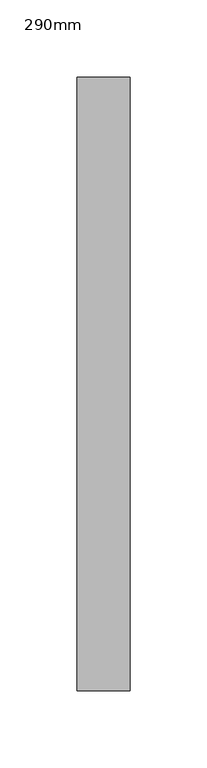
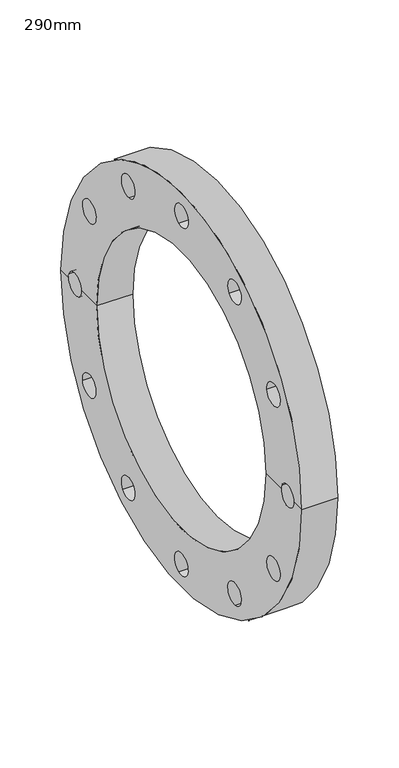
"""IFC4 building model written with IfcOpenShell, lengths in millimetres: pipe fitting geometry, Durapipe_PipeFitting_PVC_BackingFlange : 290mm."""

from ifc_helpers import new_model, si_unit, frame, origin, place, context, project, spatial, polyline, circle_curve, source, transform, mapped, element, save
from ifc_brep_helpers import plane_surface, cylinder_surface, revolved_surface, advanced_brep


def pipe_fitting_290mm_5db712d4(model_context):
    return source(origin(), model_context, "Body", "AdvancedBrep", [
        advanced_brep(
        [(-17.0, 198.0, 0.0), (17.0, 198.0, 0.0), (17.0, -198.0, 0.0), (-17.0, -198.0, 0.0), (-17.0, -185.6997967, 0.0), (-17.0, -184.8610992, -4.2781549), (-17.0, -163.7001792, 0.0), (-17.0, -139.0, 0.0), (-17.0, 139.0, 0.0), (-17.0, 163.7001792, 0.0), (-17.0, 164.5388767, -4.1484266), (-17.0, 185.6997967, 0.0), (-17.0, 4.2781549, -184.8610992), (-17.0, -4.1484266, -164.5388767), (-17.0, 96.1355404, -157.9553306), (-17.0, 78.6767956, -144.5690605), (-17.0, -88.7255587, -162.2334855), (-17.0, -85.8620812, -140.4206339), (-17.0, 162.2334855, -88.7255587), (-17.0, 140.4206339, -85.8620812), (-17.0, -157.9553306, -96.1355404), (-17.0, -144.5690605, -78.6767956), (-17.0, 184.8610992, 4.2781549), (-17.0, -164.5388767, 4.1484266), (-17.0, 157.9553306, 96.1355404), (-17.0, 144.5690605, 78.6767956), (-17.0, 88.7255587, 162.2334855), (-17.0, 85.8620812, 140.4206339), (-17.0, -4.2781549, 184.8610992), (-17.0, 4.1484266, 164.5388767), (-17.0, -96.1355404, 157.9553306), (-17.0, -78.6767956, 144.5690605), (-17.0, -162.2334855, 88.7255587), (-17.0, -140.4206339, 85.8620812), (17.0, 139.0, 0.0), (17.0, -139.0, 0.0), (17.0, -163.7001792, 0.0), (17.0, -184.8610992, -4.2781549), (17.0, -185.6997967, 0.0), (17.0, 185.6997967, 0.0), (17.0, 164.5388767, -4.1484266), (17.0, 163.7001792, 0.0), (17.0, -4.1484266, -164.5388767), (17.0, 4.2781549, -184.8610992), (17.0, 78.6767956, -144.5690605), (17.0, 96.1355404, -157.9553306), (17.0, -85.8620812, -140.4206339), (17.0, -88.7255587, -162.2334855), (17.0, 140.4206339, -85.8620812), (17.0, 162.2334855, -88.7255587), (17.0, -144.5690605, -78.6767956), (17.0, -157.9553306, -96.1355404), (17.0, 184.8610992, 4.2781549), (17.0, -164.5388767, 4.1484266), (17.0, 144.5690605, 78.6767956), (17.0, 157.9553306, 96.1355404), (17.0, 85.8620812, 140.4206339), (17.0, 88.7255587, 162.2334855), (17.0, 4.1484266, 164.5388767), (17.0, -4.2781549, 184.8610992), (17.0, -78.6767956, 144.5690605), (17.0, -96.1355404, 157.9553306), (17.0, -140.4206339, 85.8620812), (17.0, -162.2334855, 88.7255587)],
        [
            (0, 1),
            (1, 2, circle_curve(frame((17.0, 0.0, 0.0), z_axis=(-1.0, 0.0, 0.0), x_axis=(0.0, 1.0, 0.0)), 198.0)),
            (2, 3),
            (3, 0, circle_curve(frame((-17.0, 0.0, 0.0), z_axis=(1.0, 0.0, 0.0), x_axis=(0.0, 1.0, 0.0)), 198.0)),
            (0, 3, circle_curve(frame((-17.0, 0.0, 0.0), z_axis=(1.0, 0.0, 0.0), x_axis=(0.0, 1.0, 0.0)), 198.0)),
            (2, 1, circle_curve(frame((17.0, 0.0, 0.0), z_axis=(-1.0, 0.0, 0.0), x_axis=(0.0, 1.0, 0.0)), 198.0)),
            (3, 4),
            (4, 5, circle_curve(frame((-17.0, -174.699988, -0.0648642), z_axis=(1.0, 0.0, 0.0), x_axis=(0.0, -0.9237373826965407, -0.38302643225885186)), 11.0)),
            (5, 6, circle_curve(frame((-17.0, -174.699988, -0.0648642), z_axis=(1.0, 0.0, 0.0), x_axis=(0.0, -0.9237373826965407, -0.38302643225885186)), 11.0)),
            (6, 7),
            (7, 8, circle_curve(frame((-17.0, 0.0, 0.0), z_axis=(1.0, 0.0, 0.0), x_axis=(0.0, 1.0, 0.0)), 139.0)),
            (8, 9),
            (9, 10, circle_curve(frame((-17.0, 174.699988, 0.0648642), z_axis=(1.0, 0.0, 0.0), x_axis=(0.0, 0.9237373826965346, 0.3830264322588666)), 11.0)),
            (10, 11, circle_curve(frame((-17.0, 174.699988, 0.0648642), z_axis=(1.0, 0.0, 0.0), x_axis=(0.0, 0.9237373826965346, 0.3830264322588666)), 11.0)),
            (11, 0),
            (12, 13, circle_curve(frame((-17.0, 0.0648642, -174.699988), z_axis=(1.0, 0.0, 0.0), x_axis=(0.0, 0.3830264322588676, -0.9237373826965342)), 11.0)),
            (13, 12, circle_curve(frame((-17.0, 0.0648642, -174.699988), z_axis=(1.0, 0.0, 0.0), x_axis=(0.0, 0.3830264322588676, -0.9237373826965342)), 11.0)),
            (14, 15, circle_curve(frame((-17.0, 87.406168, -151.2621955), z_axis=(1.0, 0.0, 0.0), x_axis=(0.0, 0.7935793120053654, -0.6084668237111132)), 11.0)),
            (15, 14, circle_curve(frame((-17.0, 87.406168, -151.2621955), z_axis=(1.0, 0.0, 0.0), x_axis=(0.0, 0.7935793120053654, -0.6084668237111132)), 11.0)),
            (16, 17, circle_curve(frame((-17.0, -87.29382, -151.3270597), z_axis=(1.0, 0.0, 0.0), x_axis=(0.0, -0.13015807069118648, -0.991493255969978)), 11.0)),
            (17, 16, circle_curve(frame((-17.0, -87.29382, -151.3270597), z_axis=(1.0, 0.0, 0.0), x_axis=(0.0, -0.13015807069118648, -0.991493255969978)), 11.0)),
            (18, 19, circle_curve(frame((-17.0, 151.3270597, -87.29382), z_axis=(1.0, 0.0, 0.0), x_axis=(0.0, 0.9914932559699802, -0.13015807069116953)), 11.0)),
            (19, 18, circle_curve(frame((-17.0, 151.3270597, -87.29382), z_axis=(1.0, 0.0, 0.0), x_axis=(0.0, 0.9914932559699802, -0.13015807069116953)), 11.0)),
            (20, 21, circle_curve(frame((-17.0, -151.2621955, -87.406168), z_axis=(1.0, 0.0, 0.0), x_axis=(0.0, -0.6084668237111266, -0.7935793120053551)), 11.0)),
            (21, 20, circle_curve(frame((-17.0, -151.2621955, -87.406168), z_axis=(1.0, 0.0, 0.0), x_axis=(0.0, -0.6084668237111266, -0.7935793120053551)), 11.0)),
            (11, 22, circle_curve(frame((-17.0, 174.699988, 0.0648642), z_axis=(1.0, 0.0, 0.0), x_axis=(0.0, 0.9237373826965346, 0.3830264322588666)), 11.0)),
            (22, 9, circle_curve(frame((-17.0, 174.699988, 0.0648642), z_axis=(1.0, 0.0, 0.0), x_axis=(0.0, 0.9237373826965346, 0.3830264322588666)), 11.0)),
            (8, 7, circle_curve(frame((-17.0, 0.0, 0.0), z_axis=(1.0, 0.0, 0.0), x_axis=(0.0, 1.0, 0.0)), 139.0)),
            (6, 23, circle_curve(frame((-17.0, -174.699988, -0.0648642), z_axis=(1.0, 0.0, 0.0), x_axis=(0.0, -0.9237373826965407, -0.38302643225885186)), 11.0)),
            (23, 4, circle_curve(frame((-17.0, -174.699988, -0.0648642), z_axis=(1.0, 0.0, 0.0), x_axis=(0.0, -0.9237373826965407, -0.38302643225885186)), 11.0)),
            (24, 25, circle_curve(frame((-17.0, 151.2621955, 87.406168), z_axis=(1.0, 0.0, 0.0), x_axis=(0.0, 0.6084668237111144, 0.7935793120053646)), 11.0)),
            (25, 24, circle_curve(frame((-17.0, 151.2621955, 87.406168), z_axis=(1.0, 0.0, 0.0), x_axis=(0.0, 0.6084668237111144, 0.7935793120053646)), 11.0)),
            (26, 27, circle_curve(frame((-17.0, 87.29382, 151.3270597), z_axis=(1.0, 0.0, 0.0), x_axis=(0.0, 0.1301580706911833, 0.9914932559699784)), 11.0)),
            (27, 26, circle_curve(frame((-17.0, 87.29382, 151.3270597), z_axis=(1.0, 0.0, 0.0), x_axis=(0.0, 0.1301580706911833, 0.9914932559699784)), 11.0)),
            (28, 29, circle_curve(frame((-17.0, -0.0648642, 174.699988), z_axis=(1.0, 0.0, 0.0), x_axis=(0.0, -0.3830264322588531, 0.9237373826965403)), 11.0)),
            (29, 28, circle_curve(frame((-17.0, -0.0648642, 174.699988), z_axis=(1.0, 0.0, 0.0), x_axis=(0.0, -0.3830264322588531, 0.9237373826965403)), 11.0)),
            (30, 31, circle_curve(frame((-17.0, -87.406168, 151.2621955), z_axis=(1.0, 0.0, 0.0), x_axis=(0.0, -0.7935793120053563, 0.6084668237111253)), 11.0)),
            (31, 30, circle_curve(frame((-17.0, -87.406168, 151.2621955), z_axis=(1.0, 0.0, 0.0), x_axis=(0.0, -0.7935793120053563, 0.6084668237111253)), 11.0)),
            (32, 33, circle_curve(frame((-17.0, -151.3270597, 87.2938199), z_axis=(1.0, 0.0, 0.0), x_axis=(0.0, -0.9914932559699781, 0.13015807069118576)), 11.0)),
            (33, 32, circle_curve(frame((-17.0, -151.3270597, 87.2938199), z_axis=(1.0, 0.0, 0.0), x_axis=(0.0, -0.9914932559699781, 0.13015807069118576)), 11.0)),
            (34, 8),
            (7, 35),
            (35, 34, circle_curve(frame((17.0, 0.0, 0.0), z_axis=(1.0, 0.0, 0.0), x_axis=(0.0, 1.0, 0.0)), 139.0)),
            (34, 35, circle_curve(frame((17.0, 0.0, 0.0), z_axis=(1.0, 0.0, 0.0), x_axis=(0.0, 1.0, 0.0)), 139.0)),
            (35, 36),
            (36, 37, circle_curve(frame((17.0, -174.699988, -0.0648642), z_axis=(-1.0, 0.0, 0.0), x_axis=(0.0, -0.9237373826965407, -0.38302643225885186)), 11.0)),
            (37, 38, circle_curve(frame((17.0, -174.699988, -0.0648642), z_axis=(-1.0, 0.0, 0.0), x_axis=(0.0, -0.9237373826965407, -0.38302643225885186)), 11.0)),
            (38, 2),
            (1, 39),
            (39, 40, circle_curve(frame((17.0, 174.699988, 0.0648642), z_axis=(-1.0, 0.0, 0.0), x_axis=(0.0, 0.9237373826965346, 0.3830264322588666)), 11.0)),
            (40, 41, circle_curve(frame((17.0, 174.699988, 0.0648642), z_axis=(-1.0, 0.0, 0.0), x_axis=(0.0, 0.9237373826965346, 0.3830264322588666)), 11.0)),
            (41, 34),
            (42, 43, circle_curve(frame((17.0, 0.0648642, -174.699988), z_axis=(-1.0, 0.0, 0.0), x_axis=(0.0, 0.3830264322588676, -0.9237373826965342)), 11.0)),
            (43, 42, circle_curve(frame((17.0, 0.0648642, -174.699988), z_axis=(-1.0, 0.0, 0.0), x_axis=(0.0, 0.3830264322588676, -0.9237373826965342)), 11.0)),
            (44, 45, circle_curve(frame((17.0, 87.406168, -151.2621955), z_axis=(-1.0, 0.0, 0.0), x_axis=(0.0, 0.7935793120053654, -0.6084668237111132)), 11.0)),
            (45, 44, circle_curve(frame((17.0, 87.406168, -151.2621955), z_axis=(-1.0, 0.0, 0.0), x_axis=(0.0, 0.7935793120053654, -0.6084668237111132)), 11.0)),
            (46, 47, circle_curve(frame((17.0, -87.29382, -151.3270597), z_axis=(-1.0, 0.0, 0.0), x_axis=(0.0, -0.13015807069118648, -0.991493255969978)), 11.0)),
            (47, 46, circle_curve(frame((17.0, -87.29382, -151.3270597), z_axis=(-1.0, 0.0, 0.0), x_axis=(0.0, -0.13015807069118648, -0.991493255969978)), 11.0)),
            (48, 49, circle_curve(frame((17.0, 151.3270597, -87.29382), z_axis=(-1.0, 0.0, 0.0), x_axis=(0.0, 0.9914932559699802, -0.13015807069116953)), 11.0)),
            (49, 48, circle_curve(frame((17.0, 151.3270597, -87.29382), z_axis=(-1.0, 0.0, 0.0), x_axis=(0.0, 0.9914932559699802, -0.13015807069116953)), 11.0)),
            (50, 51, circle_curve(frame((17.0, -151.2621955, -87.406168), z_axis=(-1.0, 0.0, 0.0), x_axis=(0.0, -0.6084668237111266, -0.7935793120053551)), 11.0)),
            (51, 50, circle_curve(frame((17.0, -151.2621955, -87.406168), z_axis=(-1.0, 0.0, 0.0), x_axis=(0.0, -0.6084668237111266, -0.7935793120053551)), 11.0)),
            (41, 52, circle_curve(frame((17.0, 174.699988, 0.0648642), z_axis=(-1.0, 0.0, 0.0), x_axis=(0.0, 0.9237373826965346, 0.3830264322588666)), 11.0)),
            (52, 39, circle_curve(frame((17.0, 174.699988, 0.0648642), z_axis=(-1.0, 0.0, 0.0), x_axis=(0.0, 0.9237373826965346, 0.3830264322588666)), 11.0)),
            (38, 53, circle_curve(frame((17.0, -174.699988, -0.0648642), z_axis=(-1.0, 0.0, 0.0), x_axis=(0.0, -0.9237373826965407, -0.38302643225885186)), 11.0)),
            (53, 36, circle_curve(frame((17.0, -174.699988, -0.0648642), z_axis=(-1.0, 0.0, 0.0), x_axis=(0.0, -0.9237373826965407, -0.38302643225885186)), 11.0)),
            (54, 55, circle_curve(frame((17.0, 151.2621955, 87.406168), z_axis=(-1.0, 0.0, 0.0), x_axis=(0.0, 0.6084668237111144, 0.7935793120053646)), 11.0)),
            (55, 54, circle_curve(frame((17.0, 151.2621955, 87.406168), z_axis=(-1.0, 0.0, 0.0), x_axis=(0.0, 0.6084668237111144, 0.7935793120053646)), 11.0)),
            (56, 57, circle_curve(frame((17.0, 87.29382, 151.3270597), z_axis=(-1.0, 0.0, 0.0), x_axis=(0.0, 0.1301580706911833, 0.9914932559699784)), 11.0)),
            (57, 56, circle_curve(frame((17.0, 87.29382, 151.3270597), z_axis=(-1.0, 0.0, 0.0), x_axis=(0.0, 0.1301580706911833, 0.9914932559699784)), 11.0)),
            (58, 59, circle_curve(frame((17.0, -0.0648642, 174.699988), z_axis=(-1.0, 0.0, 0.0), x_axis=(0.0, -0.3830264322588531, 0.9237373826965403)), 11.0)),
            (59, 58, circle_curve(frame((17.0, -0.0648642, 174.699988), z_axis=(-1.0, 0.0, 0.0), x_axis=(0.0, -0.3830264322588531, 0.9237373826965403)), 11.0)),
            (60, 61, circle_curve(frame((17.0, -87.406168, 151.2621955), z_axis=(-1.0, 0.0, 0.0), x_axis=(0.0, -0.7935793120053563, 0.6084668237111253)), 11.0)),
            (61, 60, circle_curve(frame((17.0, -87.406168, 151.2621955), z_axis=(-1.0, 0.0, 0.0), x_axis=(0.0, -0.7935793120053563, 0.6084668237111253)), 11.0)),
            (62, 63, circle_curve(frame((17.0, -151.3270597, 87.2938199), z_axis=(-1.0, 0.0, 0.0), x_axis=(0.0, -0.9914932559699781, 0.13015807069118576)), 11.0)),
            (63, 62, circle_curve(frame((17.0, -151.3270597, 87.2938199), z_axis=(-1.0, 0.0, 0.0), x_axis=(0.0, -0.9914932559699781, 0.13015807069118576)), 11.0)),
            (46, 17),
            (16, 47),
            (42, 13),
            (12, 43),
            (44, 15),
            (14, 45),
            (48, 19),
            (18, 49),
            (40, 10),
            (22, 52),
            (54, 25),
            (24, 55),
            (56, 27),
            (26, 57),
            (58, 29),
            (28, 59),
            (60, 31),
            (30, 61),
            (62, 33),
            (32, 63),
            (53, 23),
            (5, 37),
            (50, 21),
            (20, 51),
        ],
        [
            cylinder_surface(frame((-35.7738734, 0.0, 0.0), z_axis=(-1.0, 0.0, 0.0), x_axis=(0.0, 1.0, 0.0)), 198.0),
            plane_surface(frame((-17.0, 0.0, 0.0), z_axis=(-1.0, 0.0, 0.0), x_axis=(0.0, 1.0, 0.0))),
            revolved_surface(polyline([(-17.0, 139.0, 0.0), (17.0, 139.0, 0.0)]), (-35.7738734, 0.0, 0.0), (-1.0, 0.0, 0.0)),
            plane_surface(frame((17.0, 0.0, 0.0), z_axis=(1.0, 0.0, 0.0), x_axis=(0.0, 1.0, 0.0))),
            revolved_surface(polyline([(-17.0, -88.72555877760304, -162.23348551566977), (17.0, -88.72555877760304, -162.23348551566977)]), (33.0, -87.29382, -151.3270597), (-1.0, 0.0, 0.0)),
            revolved_surface(polyline([(-17.00000000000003, 4.278154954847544, -184.86109920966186), (16.999999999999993, 4.278154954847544, -184.86109920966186)]), (33.0, 0.0648642, -174.699988), (-1.0000000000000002, 0.0, 0.0)),
            revolved_surface(polyline([(-16.99999999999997, 96.13554043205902, -157.95533056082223), (17.000000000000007, 96.13554043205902, -157.95533056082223)]), (33.0, 87.406168, -151.2621955), (-0.9999999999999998, 0.0, 0.0)),
            revolved_surface(polyline([(-17.00000000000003, 162.2334855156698, -88.72555877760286), (16.999999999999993, 162.2334855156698, -88.72555877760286)]), (33.0, 151.3270597, -87.29382), (-1.0000000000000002, 0.0, 0.0)),
            revolved_surface(polyline([(-17.00000000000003, 184.86109920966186, 4.278154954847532), (16.999999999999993, 184.86109920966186, 4.278154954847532)]), (33.0, 174.699988, 0.0648642), (-1.0000000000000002, 0.0, 0.0)),
            revolved_surface(polyline([(-17.0, 157.95533056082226, 96.135540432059), (17.0, 157.95533056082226, 96.135540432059)]), (33.0, 151.2621955, 87.406168), (-1.0, 0.0, 0.0)),
            revolved_surface(polyline([(-17.00000000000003, 88.72555877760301, 162.23348551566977), (16.999999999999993, 88.72555877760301, 162.23348551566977)]), (33.0, 87.29382, 151.3270597), (-1.0000000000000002, 0.0, 0.0)),
            revolved_surface(polyline([(-17.00000000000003, -4.278154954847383, 184.86109920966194), (16.999999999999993, -4.278154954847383, 184.86109920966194)]), (33.0, -0.0648642, 174.699988), (-1.0000000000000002, 0.0, 0.0)),
            revolved_surface(polyline([(-17.0, -96.13554043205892, 157.95533056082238), (17.0, -96.13554043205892, 157.95533056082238)]), (33.0, -87.406168, 151.2621955), (-1.0, 0.0, 0.0)),
            revolved_surface(polyline([(-17.00000000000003, -162.23348551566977, 88.72555867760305), (16.999999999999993, -162.23348551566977, 88.72555867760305)]), (33.0, -151.3270597, 87.2938199), (-1.0000000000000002, 0.0, 0.0)),
            revolved_surface(polyline([(-17.00000000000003, -184.86109920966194, -4.27815495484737), (16.999999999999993, -184.86109920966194, -4.27815495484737)]), (33.0, -174.699988, -0.0648642), (-1.0000000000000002, 0.0, 0.0)),
            revolved_surface(polyline([(-17.0, -157.95533056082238, -96.1355404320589), (17.0, -157.95533056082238, -96.1355404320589)]), (33.0, -151.2621955, -87.406168), (-1.0, 0.0, 0.0)),
        ],
        [
            (0, [[1, 2, 3, 4]]),
            (0, [[-1, 5, -3, 6]]),
            (1, [[-4, 7, 8, 9, 10, 11, 12, 13, 14, 15], [16, 17], [18, 19], [20, 21], [22, 23], [24, 25]]),
            (1, [[-5, -15, 26, 27, -12, 28, -10, 29, 30, -7], [31, 32], [33, 34], [35, 36], [37, 38], [39, 40]]),
            (2, [[41, -11, 42, 43]]),
            (2, [[-41, 44, -42, -28]]),
            (3, [[-43, 45, 46, 47, 48, -2, 49, 50, 51, 52], [53, 54], [55, 56], [57, 58], [59, 60], [61, 62]]),
            (3, [[-44, -52, 63, 64, -49, -6, -48, 65, 66, -45], [67, 68], [69, 70], [71, 72], [73, 74], [75, 76]]),
            (4, [[77, -20, 78, -57]]),
            (4, [[-77, -58, -78, -21]]),
            (5, [[79, -16, 80, -53]]),
            (5, [[-79, -54, -80, -17]]),
            (6, [[81, -18, 82, -55]]),
            (6, [[-81, -56, -82, -19]]),
            (7, [[83, -22, 84, -59]]),
            (7, [[-83, -60, -84, -23]]),
            (8, [[85, -13, -27, 86, -63, -51]]),
            (8, [[-85, -50, -64, -86, -26, -14]]),
            (9, [[87, -31, 88, -67]]),
            (9, [[-87, -68, -88, -32]]),
            (10, [[89, -33, 90, -69]]),
            (10, [[-89, -70, -90, -34]]),
            (11, [[91, -35, 92, -71]]),
            (11, [[-91, -72, -92, -36]]),
            (12, [[93, -37, 94, -73]]),
            (12, [[-93, -74, -94, -38]]),
            (13, [[95, -39, 96, -75]]),
            (13, [[-95, -76, -96, -40]]),
            (14, [[97, -29, -9, 98, -46, -66]]),
            (14, [[-97, -65, -47, -98, -8, -30]]),
            (15, [[99, -24, 100, -61]]),
            (15, [[-99, -62, -100, -25]]),
        ],
    ),
    ])


if __name__ == "__main__":
    model = new_model("IFC4")
    model_context = context("Model", 3, world=origin())
    ifc_project = project(units=[si_unit("LENGTHUNIT", "METRE", prefix="MILLI")], contexts=[model_context])
    site = spatial("IfcSite", under=ifc_project)
    building = spatial("IfcBuilding", under=site)
    placement = place(None, origin())
    pipe_fitting_290mm_shape = pipe_fitting_290mm_5db712d4(model_context)
    element("IfcPipeFitting", 1, ObjectType="Durapipe_PipeFitting_PVC_BackingFlange : 290mm", at=placement, inside=building, context=model_context, shape_type="MappedRepresentation", body=[
        mapped(pipe_fitting_290mm_shape, transform((0.0, 0.0, 0.0), x_axis=(1.0, 0.0, 0.0), y_axis=(0.0, 1.0, 0.0), z_axis=(0.0, 0.0, 1.0))),
    ])
    save(model, "model.ifc")
